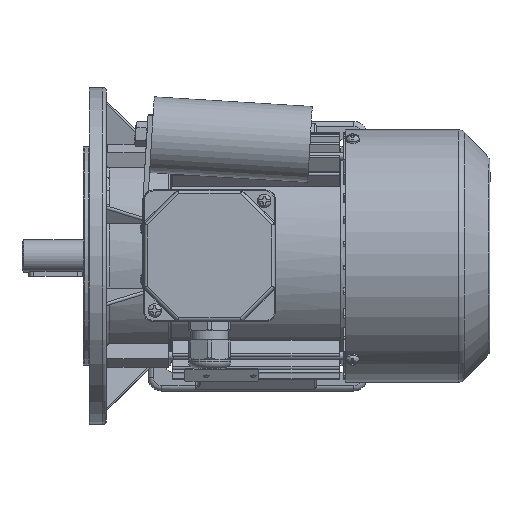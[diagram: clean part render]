
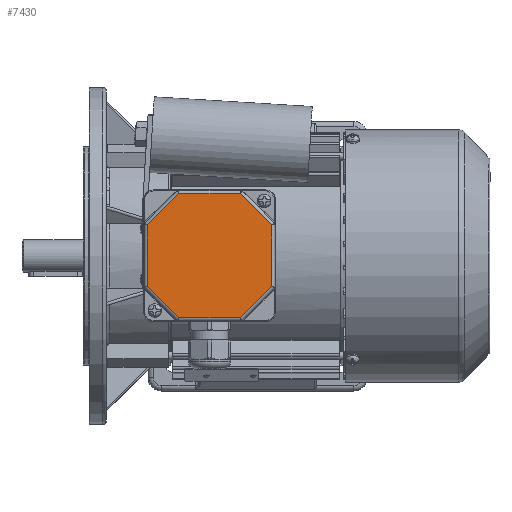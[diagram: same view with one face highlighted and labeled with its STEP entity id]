
A CAD part, top view. The second image highlights one B-rep face of the part: STEP entity #7430.
In plain terms, the highlighted planar face has unit normal (0, 0, 1).
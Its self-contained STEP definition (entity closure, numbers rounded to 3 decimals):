
#7430 = ADVANCED_FACE( '', ( #15384 ), #15385, .T. );
#15384 = FACE_OUTER_BOUND( '', #38918, .T. );
#15385 = PLANE( '', #38919 );
#38918 = EDGE_LOOP( '', ( #62972, #62973, #62974, #62975, #62976, #62977, #62978, #62979 ) );
#38919 = AXIS2_PLACEMENT_3D( '', #62980, #62981, #62982 );
#62972 = ORIENTED_EDGE( '', *, *, #76530, .T. );
#62973 = ORIENTED_EDGE( '', *, *, #68267, .T. );
#62974 = ORIENTED_EDGE( '', *, *, #76741, .T. );
#62975 = ORIENTED_EDGE( '', *, *, #68552, .T. );
#62976 = ORIENTED_EDGE( '', *, *, #76742, .T. );
#62977 = ORIENTED_EDGE( '', *, *, #75983, .T. );
#62978 = ORIENTED_EDGE( '', *, *, #76743, .T. );
#62979 = ORIENTED_EDGE( '', *, *, #76744, .T. );
#62980 = CARTESIAN_POINT( '', ( -39., 39., 12. ) );
#62981 = DIRECTION( '', ( 0., 0., 1. ) );
#62982 = DIRECTION( '', ( 1., 0., 0. ) );
#68267 = EDGE_CURVE( '', #77877, #77878, #77879, .T. );
#68552 = EDGE_CURVE( '', #78398, #78399, #78400, .T. );
#75983 = EDGE_CURVE( '', #89810, #89811, #89812, .T. );
#76530 = EDGE_CURVE( '', #90463, #77877, #90464, .F. );
#76741 = EDGE_CURVE( '', #77878, #78398, #90719, .F. );
#76742 = EDGE_CURVE( '', #78399, #89810, #90720, .F. );
#76743 = EDGE_CURVE( '', #89811, #90721, #90722, .F. );
#76744 = EDGE_CURVE( '', #90721, #90463, #90723, .T. );
#77877 = VERTEX_POINT( '', #91860 );
#77878 = VERTEX_POINT( '', #91861 );
#77879 = LINE( '', #91862, #91863 );
#78398 = VERTEX_POINT( '', #92814 );
#78399 = VERTEX_POINT( '', #92815 );
#78400 = LINE( '', #92816, #92817 );
#89810 = VERTEX_POINT( '', #122800 );
#89811 = VERTEX_POINT( '', #122801 );
#89812 = LINE( '', #122802, #122803 );
#90463 = VERTEX_POINT( '', #125450 );
#90464 = LINE( '', #125451, #125452 );
#90719 = LINE( '', #125973, #125974 );
#90720 = LINE( '', #125975, #125976 );
#90721 = VERTEX_POINT( '', #125977 );
#90722 = LINE( '', #125978, #125979 );
#90723 = LINE( '', #125980, #125981 );
#91860 = CARTESIAN_POINT( '', ( 36.825, 18.255, 12. ) );
#91861 = CARTESIAN_POINT( '', ( 18.255, 36.825, 12. ) );
#91862 = CARTESIAN_POINT( '', ( 17.679, 37.401, 12. ) );
#91863 = VECTOR( '', #127901, 1000. );
#92814 = CARTESIAN_POINT( '', ( -18.255, 36.825, 12. ) );
#92815 = CARTESIAN_POINT( '', ( -36.825, 18.255, 12. ) );
#92816 = CARTESIAN_POINT( '', ( -37.401, 17.679, 12. ) );
#92817 = VECTOR( '', #128263, 1000. );
#122800 = CARTESIAN_POINT( '', ( -36.825, -18.255, 12. ) );
#122801 = CARTESIAN_POINT( '', ( -18.255, -36.825, 12. ) );
#122802 = CARTESIAN_POINT( '', ( -17.679, -37.401, 12. ) );
#122803 = VECTOR( '', #136967, 1000. );
#125450 = CARTESIAN_POINT( '', ( 36.825, -18.255, 12. ) );
#125451 = CARTESIAN_POINT( '', ( 36.825, 19.069, 12. ) );
#125452 = VECTOR( '', #137510, 1000. );
#125973 = CARTESIAN_POINT( '', ( -19.069, 36.825, 12. ) );
#125974 = VECTOR( '', #137854, 1000. );
#125975 = CARTESIAN_POINT( '', ( -36.825, -19.069, 12. ) );
#125976 = VECTOR( '', #137855, 1000. );
#125977 = CARTESIAN_POINT( '', ( 18.255, -36.825, 12. ) );
#125978 = CARTESIAN_POINT( '', ( 19.069, -36.825, 12. ) );
#125979 = VECTOR( '', #137856, 1000. );
#125980 = CARTESIAN_POINT( '', ( 37.401, -17.679, 12. ) );
#125981 = VECTOR( '', #137857, 1000. );
#127901 = DIRECTION( '', ( -0.707, 0.707, 0. ) );
#128263 = DIRECTION( '', ( -0.707, -0.707, 0. ) );
#136967 = DIRECTION( '', ( 0.707, -0.707, 0. ) );
#137510 = DIRECTION( '', ( 0., -1., 0. ) );
#137854 = DIRECTION( '', ( 1., 0., 0. ) );
#137855 = DIRECTION( '', ( 0., 1., 0. ) );
#137856 = DIRECTION( '', ( -1., 0., 0. ) );
#137857 = DIRECTION( '', ( 0.707, 0.707, 0. ) );
